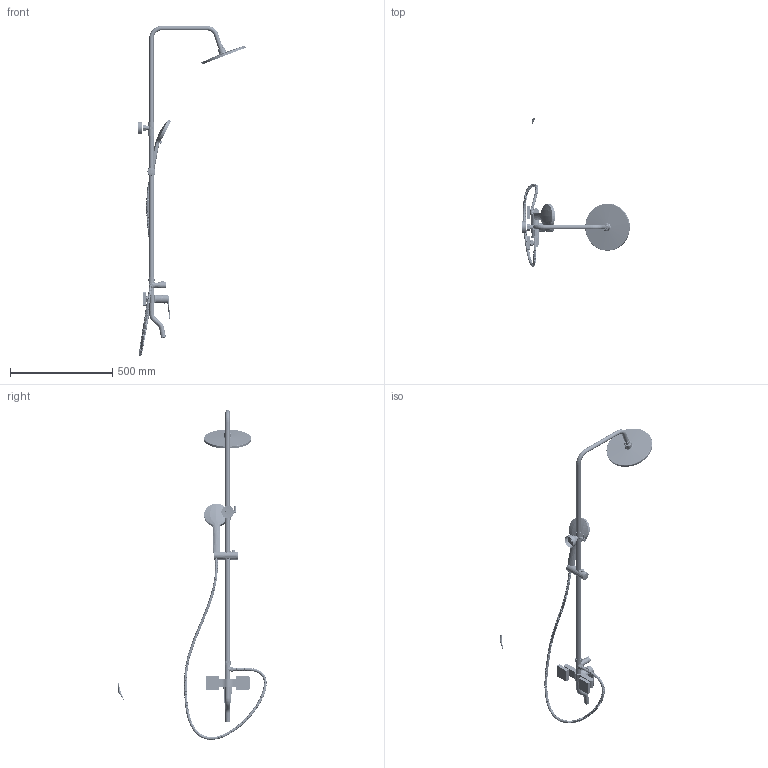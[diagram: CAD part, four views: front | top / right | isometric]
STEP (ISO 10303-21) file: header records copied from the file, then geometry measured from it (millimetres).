
FILE_DESCRIPTION(/* description */ (''),/* implementation_level */ '2;1');
FILE_NAME(/* name */ '三功能淋浴.stp',/* time_stamp */ '2024-03-02T22:15:32+08:00',/* author */ (''),/* organization */ (''),/* preprocessor_version */ 'ST-DEVELOPER v16',/* originating_system */ 'SIEMENS PLM Software NX 10.0',/* authorisation */ '');
FILE_SCHEMA (('CONFIG_CONTROL_DESIGN'));
Length unit declared in the file: millimetre
Products named in the file (1): 三功能淋浴
Bounding box: 526.1 x 729.19 x 1620.75 mm (x, y, z)
Volume: 2686151.8 mm3; surface area: 871157.9 mm2
Topology: 41 solids, 42 shells, 4886 faces, 10318 edges, 7166 vertices
Faces by surface type: plane 2142, cylinder 1841, torus 646, bspline 121, cone 98, sphere 38
Full cylindrical faces by diameter (mm): 0.5 x577, 2 x140, 2.5 x88, 3 x117, 3.476 x1, 3.5 x86, 4 x88, 4.5 x60, 5 x3, 5.317 x1, 5.5 x1, 7 x1, 8 x1, 8.9 x1, 9 x3, 10 x1, 10.3 x2, 10.8 x1, 12 x17, 14 x205, 14.5 x2, 15 x2, 15.501 x1, 15.6 x2, 16 x5, 17.2 x1, 19.1 x1, 20 x3, 20.5 x2, 20.6 x15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
Entity records: 133933 total; most frequent: CARTESIAN_POINT 45399, DIRECTION 19361, ORIENTED_EDGE 13054, AXIS2_PLACEMENT_3D 9080, EDGE_LOOP 8703, FACE_BOUND 6998, EDGE_CURVE 6527, VERTEX_POINT 5540
